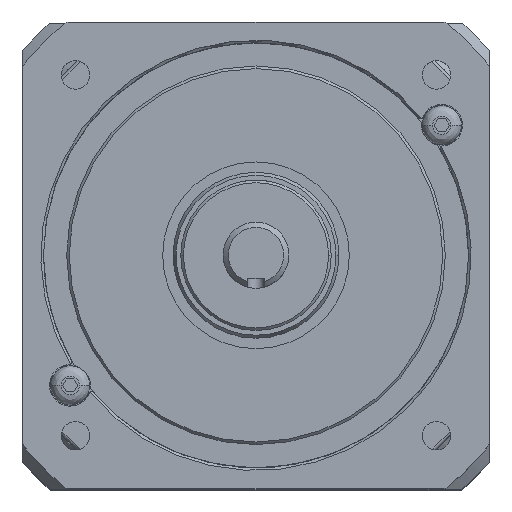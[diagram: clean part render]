
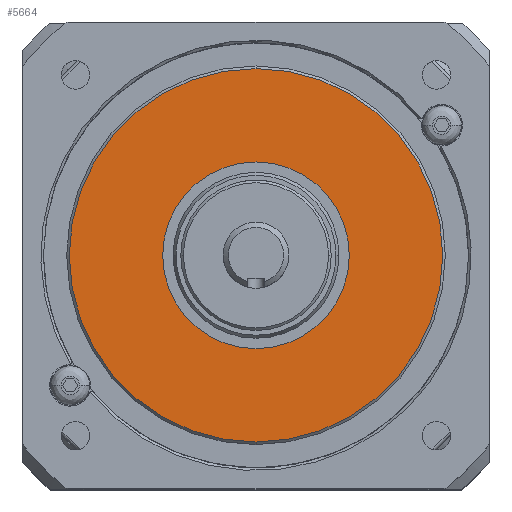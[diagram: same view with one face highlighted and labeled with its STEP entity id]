
A CAD part, top view. The second image highlights one B-rep face of the part: STEP entity #5664.
In plain terms, the highlighted planar face has unit normal (0, 0, 1).
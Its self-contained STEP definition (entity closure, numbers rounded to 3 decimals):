
#5477=CARTESIAN_POINT('',(0.,0.,61.7));
#5478=DIRECTION('',(0.,0.,-1.));
#5479=DIRECTION('',(-1.,0.,0.));
#5480=AXIS2_PLACEMENT_3D('',#5477,#5478,#5479);
#5482=CARTESIAN_POINT('',(0.,0.,61.7));
#5483=DIRECTION('',(0.,0.,-1.));
#5484=DIRECTION('',(1.,0.,0.));
#5485=AXIS2_PLACEMENT_3D('',#5482,#5483,#5484);
#5487=CARTESIAN_POINT('',(0.,0.,
61.7));
#5488=DIRECTION('',(0.,0.,1.));
#5489=DIRECTION('',(0.,1.,0.));
#5490=AXIS2_PLACEMENT_3D('',#5487,#5488,#5489);
#5492=CARTESIAN_POINT('',(0.,0.,
61.7));
#5493=DIRECTION('',(0.,0.,1.));
#5494=DIRECTION('',(0.,-1.,0.));
#5495=AXIS2_PLACEMENT_3D('',#5492,#5493,#5494);
#5607=CARTESIAN_POINT('',(-18.,0.,61.7));
#5608=CARTESIAN_POINT('',(18.,0.,61.7));
#5609=VERTEX_POINT('',#5607);
#5610=VERTEX_POINT('',#5608);
#5639=CARTESIAN_POINT('',(0.,36.012,61.7));
#5640=CARTESIAN_POINT('',(0.,-36.012,61.7));
#5641=VERTEX_POINT('',#5639);
#5642=VERTEX_POINT('',#5640);
#5647=CARTESIAN_POINT('',(0.,0.,61.7));
#5648=DIRECTION('',(0.,0.,1.));
#5649=DIRECTION('',(1.,0.,0.));
#5650=AXIS2_PLACEMENT_3D('',#5647,#5648,#5649);
#5651=PLANE('',#5650);
#5653=ORIENTED_EDGE('',*,*,#5652,.F.);
#5655=ORIENTED_EDGE('',*,*,#5654,.F.);
#5656=EDGE_LOOP('',(#5653,#5655));
#5657=FACE_OUTER_BOUND('',#5656,.F.);
#5659=ORIENTED_EDGE('',*,*,#5658,.F.);
#5661=ORIENTED_EDGE('',*,*,#5660,.F.);
#5662=EDGE_LOOP('',(#5659,#5661));
#5663=FACE_BOUND('',#5662,.F.);
#5664=ADVANCED_FACE('',(#5657,#5663),#5651,.T.);
#5481=CIRCLE('',#5480,18.);
#5486=CIRCLE('',#5485,18.);
#5491=CIRCLE('',#5490,36.012);
#5496=CIRCLE('',#5495,36.012);
#5652=EDGE_CURVE('',#5641,#5642,#5491,.T.);
#5654=EDGE_CURVE('',#5642,#5641,#5496,.T.);
#5658=EDGE_CURVE('',#5609,#5610,#5481,.T.);
#5660=EDGE_CURVE('',#5610,#5609,#5486,.T.);
